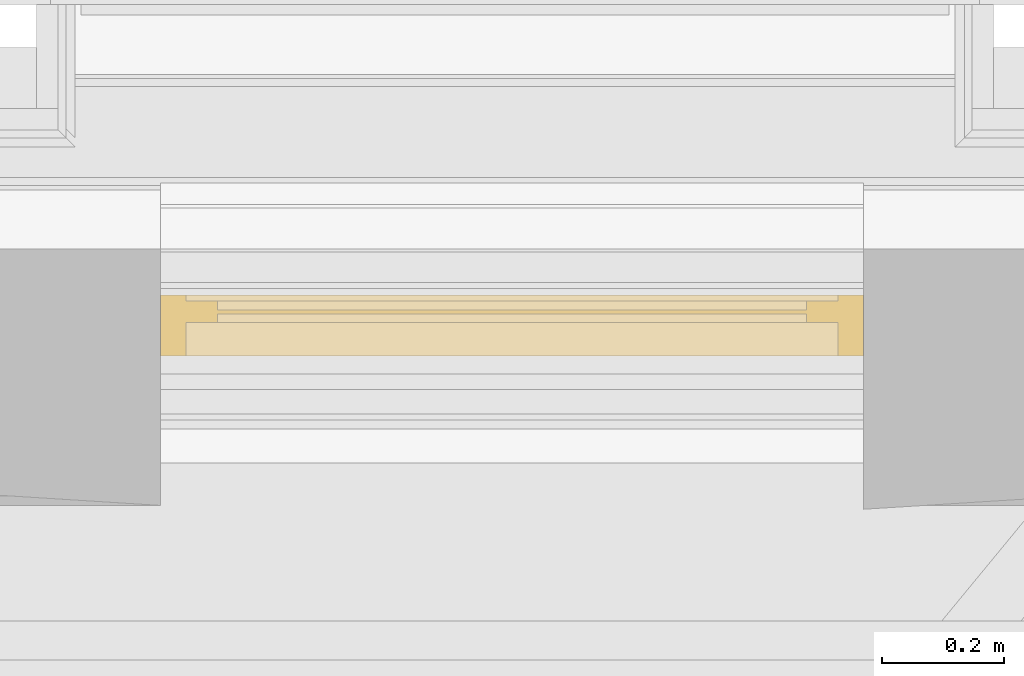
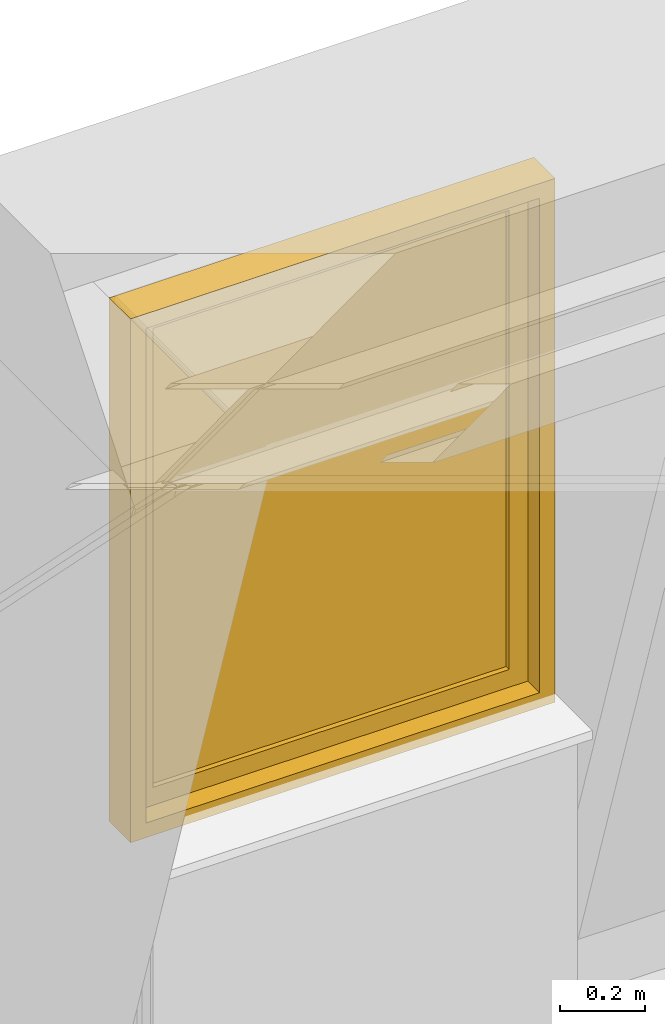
# One storey, part 132 of 183: 1 window.
"""IFC2X3 building model written with IfcOpenShell, lengths in metres."""

from ifc_helpers import new_model, entity, si_unit, converted_unit, derived_unit, money_unit, direction, frame, origin_with_axes, place, context, subcontext, project, spatial, faceted_brep, material, type_object, element, save


model = new_model("IFC2X3")

# Units and contexts
model_context = context("Model", 3, precision=1e-05, world=origin_with_axes(), true_north=direction((0.0, 1.0)))
body_context = subcontext(model_context, "Body", "Model", "MODEL_VIEW", scale=1.0)
ifc_project = project(units=[si_unit("LENGTHUNIT", "METRE"), si_unit("AREAUNIT", "SQUARE_METRE"), si_unit("VOLUMEUNIT", "CUBIC_METRE"), si_unit("ABSORBEDDOSEUNIT", "GRAY"), si_unit("AMOUNTOFSUBSTANCEUNIT", "MOLE"), si_unit("DOSEEQUIVALENTUNIT", "SIEVERT"), si_unit("ELECTRICCAPACITANCEUNIT", "FARAD"), si_unit("ELECTRICCHARGEUNIT", "COULOMB"), si_unit("ELECTRICCONDUCTANCEUNIT", "SIEMENS"), si_unit("ELECTRICCURRENTUNIT", "AMPERE"), si_unit("ELECTRICRESISTANCEUNIT", "OHM"), si_unit("ELECTRICVOLTAGEUNIT", "VOLT"), si_unit("ENERGYUNIT", "JOULE"), si_unit("FORCEUNIT", "NEWTON"), si_unit("FREQUENCYUNIT", "HERTZ"), si_unit("ILLUMINANCEUNIT", "LUX"), si_unit("INDUCTANCEUNIT", "HENRY"), si_unit("LUMINOUSFLUXUNIT", "LUMEN"), si_unit("LUMINOUSINTENSITYUNIT", "CANDELA"), si_unit("MAGNETICFLUXDENSITYUNIT", "TESLA"), si_unit("MAGNETICFLUXUNIT", "WEBER"), si_unit("MASSUNIT", "GRAM"), converted_unit("PLANEANGLEUNIT", "degree", entity("IfcReal", 0.0174532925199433), si_unit("PLANEANGLEUNIT", "RADIAN"), dimensions=[0, 0, 0, 0, 0, 0, 0]), si_unit("POWERUNIT", "WATT"), si_unit("PRESSUREUNIT", "PASCAL"), si_unit("RADIOACTIVITYUNIT", "BECQUEREL"), si_unit("SOLIDANGLEUNIT", "STERADIAN"), si_unit("THERMODYNAMICTEMPERATUREUNIT", "KELVIN"), si_unit("TIMEUNIT", "SECOND"), derived_unit("ACCELERATIONUNIT", [(si_unit("LENGTHUNIT", "METRE"), 1), (si_unit("TIMEUNIT", "SECOND"), -2)]), derived_unit("ANGULARVELOCITYUNIT", [(converted_unit("PLANEANGLEUNIT", "degree", entity("IfcReal", 0.0174532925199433), si_unit("PLANEANGLEUNIT", "RADIAN"), dimensions=[0, 0, 0, 0, 0, 0, 0]), 1), (si_unit("TIMEUNIT", "SECOND"), -1)]), derived_unit("CURVATUREUNIT", [(converted_unit("PLANEANGLEUNIT", "degree", entity("IfcReal", 0.0174532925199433), si_unit("PLANEANGLEUNIT", "RADIAN"), dimensions=[0, 0, 0, 0, 0, 0, 0]), 1), (si_unit("LENGTHUNIT", "METRE"), -1)]), derived_unit("DYNAMICVISCOSITYUNIT", [(si_unit("PRESSUREUNIT", "PASCAL"), 1), (si_unit("TIMEUNIT", "SECOND"), 1)]), derived_unit("HEATFLUXDENSITYUNIT", [(si_unit("POWERUNIT", "WATT"), 1), (si_unit("LENGTHUNIT", "METRE"), -2)]), derived_unit("HEATINGVALUEUNIT", [(si_unit("ENERGYUNIT", "JOULE"), 1), (si_unit("MASSUNIT", "GRAM"), -1)]), derived_unit("INTEGERCOUNTRATEUNIT", [(si_unit("TIMEUNIT", "SECOND"), -1)]), derived_unit("IONCONCENTRATIONUNIT", [(si_unit("MASSUNIT", "GRAM"), 1), (si_unit("VOLUMEUNIT", "CUBIC_METRE"), -1)]), derived_unit("ISOTHERMALMOISTURECAPACITYUNIT", [(si_unit("VOLUMEUNIT", "CUBIC_METRE"), 1), (si_unit("MASSUNIT", "GRAM"), -1)]), derived_unit("KINEMATICVISCOSITYUNIT", [(si_unit("AREAUNIT", "SQUARE_METRE"), 1), (si_unit("TIMEUNIT", "SECOND"), -1)]), derived_unit("LINEARFORCEUNIT", [(si_unit("FORCEUNIT", "NEWTON"), 1), (si_unit("LENGTHUNIT", "METRE"), -1)]), derived_unit("LINEARMOMENTUNIT", [(si_unit("FORCEUNIT", "NEWTON"), 1), (si_unit("LENGTHUNIT", "METRE"), -1)]), derived_unit("LINEARSTIFFNESSUNIT", [(si_unit("FORCEUNIT", "NEWTON"), 1), (si_unit("LENGTHUNIT", "METRE"), -1)]), derived_unit("LINEARVELOCITYUNIT", [(si_unit("LENGTHUNIT", "METRE"), 1), (si_unit("TIMEUNIT", "SECOND"), -1)]), derived_unit("LUMINOUSINTENSITYDISTRIBUTIONUNIT", [(si_unit("LUMINOUSINTENSITYUNIT", "CANDELA"), 1), (si_unit("LUMINOUSFLUXUNIT", "LUMEN"), -1)]), derived_unit("MASSDENSITYUNIT", [(si_unit("MASSUNIT", "GRAM"), 1), (si_unit("VOLUMEUNIT", "CUBIC_METRE"), -1)]), derived_unit("MASSFLOWRATEUNIT", [(si_unit("MASSUNIT", "GRAM"), 1), (si_unit("TIMEUNIT", "SECOND"), -1)]), derived_unit("MASSPERLENGTHUNIT", [(si_unit("MASSUNIT", "GRAM"), 1), (si_unit("LENGTHUNIT", "METRE"), -1)]), derived_unit("MODULUSOFELASTICITYUNIT", [(si_unit("FORCEUNIT", "NEWTON"), 1), (si_unit("AREAUNIT", "SQUARE_METRE"), -1)]), derived_unit("MODULUSOFLINEARSUBGRADEREACTIONUNIT", [(si_unit("FORCEUNIT", "NEWTON"), 1), (si_unit("LENGTHUNIT", "METRE"), -2)]), derived_unit("MODULUSOFROTATIONALSUBGRADEREACTIONUNIT", [(si_unit("FORCEUNIT", "NEWTON"), 1), (si_unit("LENGTHUNIT", "METRE"), 1)]), derived_unit("MODULUSOFSUBGRADEREACTIONUNIT", [(si_unit("FORCEUNIT", "NEWTON"), 1), (si_unit("VOLUMEUNIT", "CUBIC_METRE"), -1)]), derived_unit("MOISTUREDIFFUSIVITYUNIT", [(si_unit("VOLUMEUNIT", "CUBIC_METRE"), 1), (si_unit("TIMEUNIT", "SECOND"), -1)]), derived_unit("MOLECULARWEIGHTUNIT", [(si_unit("MASSUNIT", "GRAM"), 1), (si_unit("AMOUNTOFSUBSTANCEUNIT", "MOLE"), -1)]), derived_unit("PLANARFORCEUNIT", [(si_unit("FORCEUNIT", "NEWTON"), 1), (si_unit("LENGTHUNIT", "METRE"), -2)]), derived_unit("ROTATIONALFREQUENCYUNIT", [(si_unit("TIMEUNIT", "SECOND"), -1)]), derived_unit("ROTATIONALMASSUNIT", [(si_unit("MASSUNIT", "GRAM"), 1), (si_unit("LENGTHUNIT", "METRE"), 2)]), derived_unit("ROTATIONALSTIFFNESSUNIT", [(si_unit("FORCEUNIT", "NEWTON"), 1), (si_unit("LENGTHUNIT", "METRE"), 1), (converted_unit("PLANEANGLEUNIT", "degree", entity("IfcReal", 0.0174532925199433), si_unit("PLANEANGLEUNIT", "RADIAN"), dimensions=[0, 0, 0, 0, 0, 0, 0]), -1)]), derived_unit("SECTIONAREAINTEGRALUNIT", [(si_unit("LENGTHUNIT", "METRE"), 5)]), derived_unit("SECTIONMODULUSUNIT", [(si_unit("LENGTHUNIT", "METRE"), 3)]), derived_unit("SHEARMODULUSUNIT", [(si_unit("FORCEUNIT", "NEWTON"), 1), (si_unit("AREAUNIT", "SQUARE_METRE"), -1)]), derived_unit("SOUNDPOWERUNIT", [(si_unit("ENERGYUNIT", "JOULE"), 1), (si_unit("TIMEUNIT", "SECOND"), -1)]), derived_unit("SPECIFICHEATCAPACITYUNIT", [(si_unit("FORCEUNIT", "NEWTON"), 1), (si_unit("MASSUNIT", "GRAM"), -1), (si_unit("THERMODYNAMICTEMPERATUREUNIT", "KELVIN"), -1)]), derived_unit("TEMPERATUREGRADIENTUNIT", [(si_unit("THERMODYNAMICTEMPERATUREUNIT", "KELVIN"), 1), (si_unit("LENGTHUNIT", "METRE"), -1)]), derived_unit("THERMALADMITTANCEUNIT", [(si_unit("POWERUNIT", "WATT"), 1), (si_unit("AREAUNIT", "SQUARE_METRE"), -1), (si_unit("THERMODYNAMICTEMPERATUREUNIT", "KELVIN"), -1)]), derived_unit("THERMALCONDUCTANCEUNIT", [(si_unit("POWERUNIT", "WATT"), 1), (si_unit("LENGTHUNIT", "METRE"), -1), (si_unit("THERMODYNAMICTEMPERATUREUNIT", "KELVIN"), -1)]), derived_unit("THERMALEXPANSIONCOEFFICIENTUNIT", [(si_unit("THERMODYNAMICTEMPERATUREUNIT", "KELVIN"), -1)]), derived_unit("THERMALRESISTANCEUNIT", [(si_unit("AREAUNIT", "SQUARE_METRE"), 1), (si_unit("POWERUNIT", "WATT"), -1)]), derived_unit("THERMALTRANSMITTANCEUNIT", [(si_unit("POWERUNIT", "WATT"), 1), (si_unit("AREAUNIT", "SQUARE_METRE"), -1), (si_unit("THERMODYNAMICTEMPERATUREUNIT", "KELVIN"), -1)]), derived_unit("TORQUEUNIT", [(si_unit("FORCEUNIT", "NEWTON"), 1), (si_unit("LENGTHUNIT", "METRE"), 1)]), derived_unit("VAPORPERMEABILITYUNIT", [(si_unit("MASSUNIT", "GRAM"), 1), (si_unit("TIMEUNIT", "SECOND"), -1)]), derived_unit("VOLUMETRICFLOWRATEUNIT", [(si_unit("VOLUMEUNIT", "CUBIC_METRE"), 1), (si_unit("TIMEUNIT", "SECOND"), -1)]), derived_unit("WARPINGCONSTANTUNIT", [(si_unit("LENGTHUNIT", "METRE"), 6)]), derived_unit("WARPINGMOMENTUNIT", [(si_unit("FORCEUNIT", "NEWTON"), 1), (si_unit("LENGTHUNIT", "METRE"), 2)]), money_unit("GBP")], contexts=[model_context])

# Site, building, storey, space
site_placement = place(None, origin_with_axes())
site = spatial("IfcSite", under=ifc_project, at=site_placement, Name="Site", CompositionType="ELEMENT")
building_placement = place(site_placement, origin_with_axes())
building = spatial("IfcBuilding", under=site, at=building_placement, Name="Building01", CompositionType="ELEMENT")
storey_placement = place(building_placement, frame((0.0, 0.0, 5.15), z_axis=(0.0, 0.0, 1.0), x_axis=(1.0, 0.0, 0.0)))
storey = spatial("IfcBuildingStorey", under=building, at=storey_placement, Name="1F", CompositionType="ELEMENT", Elevation=5.15)
space_placement = place(storey_placement, frame((12.017381, 8.82, 9.81), z_axis=(0.0, 0.0, 1.0), x_axis=(0.0, 1.0, 0.0)))
space = spatial("IfcSpace", under=storey, at=space_placement, Name="1", CompositionType="ELEMENT", InteriorOrExteriorSpace="NOTDEFINED")

# Window
ifc_material = material(Name="A_BSUK_Windows")
window_style = type_object("IfcWindowStyle", Name="A-Awning", ConstructionType="NOTDEFINED", OperationType="USERDEFINED", ParameterTakesPrecedence=False, Sizeable=False)
window_placement = place(storey_placement, frame((11.830024, 14.350061, 10.78), z_axis=(0.0, 0.0, 1.0), x_axis=(-1.0, 0.0, 0.0)))
element("IfcWindow", 1, at=window_placement, inside=space, type_object=window_style, material=ifc_material, Name="4.18", ObjectType="A-Awning", OverallHeight=1.50000000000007, OverallWidth=1.15000000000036, context=body_context, shape_type="Brep", body=[
    faceted_brep([(-1.108, 0.0254, 0.042), (-0.042, 0.0254, 0.042), (-0.042, 0.1254, 0.042), (-1.108, 0.1254, 0.042), (-1.108, 0.0254, 1.458), (-1.108, 0.1254, 1.458), (-0.042, 0.0254, 1.458), (-0.042, 0.1254, 1.458), (0.0, 0.0254, 0.0), (0.0, 0.0254, 1.5), (-1.15, 0.0254, 1.5), (-1.15, 0.0254, 0.0), (0.0, 0.1254, 1.5), (-1.15, 0.1254, 1.5), (-1.15, 0.1254, 0.0), (0.0, 0.1254, 0.0)], [[[0, 1, 2, 3]], [[4, 0, 3, 5]], [[6, 4, 5, 7]], [[8, 9, 10, 11], [4, 6, 1, 0]], [[1, 6, 7, 2]], [[12, 13, 10, 9]], [[14, 15, 8, 11]], [[13, 14, 11, 10]], [[13, 12, 15, 14], [2, 7, 5, 3]], [[15, 12, 9, 8]]]),
    faceted_brep([(-1.0572, 0.0354, 0.0928), (-0.0928, 0.0354, 0.0928), (-0.0928, 0.0704, 0.0928), (-1.0572, 0.0704, 0.0928), (-1.0572, 0.0354, 1.4072), (-1.0572, 0.0704, 1.4072), (-0.0928, 0.0354, 1.4072), (-0.0928, 0.0704, 1.4072), (-1.108, 0.0704, 1.458), (-0.042, 0.0704, 1.458), (-0.042, 0.0704, 0.042), (-1.108, 0.0704, 0.042), (-1.108, 0.0354, 1.458), (-0.042, 0.0354, 1.458), (-0.042, 0.0354, 0.042), (-1.108, 0.0354, 0.042)], [[[0, 1, 2, 3]], [[4, 0, 3, 5]], [[6, 4, 5, 7]], [[8, 9, 10, 11], [2, 7, 5, 3]], [[9, 8, 12, 13]], [[10, 9, 13, 14]], [[11, 10, 14, 15]], [[8, 11, 15, 12]], [[14, 13, 12, 15], [4, 6, 1, 0]], [[1, 6, 7, 2]]]),
    faceted_brep([(-0.0928, 0.049725, 0.0928), (-0.0928, 0.056075, 0.0928), (-0.0928, 0.056075, 1.4072), (-0.0928, 0.049725, 1.4072), (-1.0572, 0.049725, 1.4072), (-1.0572, 0.056075, 1.4072), (-1.0572, 0.056075, 0.0928), (-1.0572, 0.049725, 0.0928)], [[[0, 1, 2, 3]], [[4, 5, 6, 7]], [[3, 2, 5, 4]], [[3, 4, 7, 0]], [[7, 6, 1, 0]], [[1, 6, 5, 2]]]),
])

save(model, "model.ifc")
